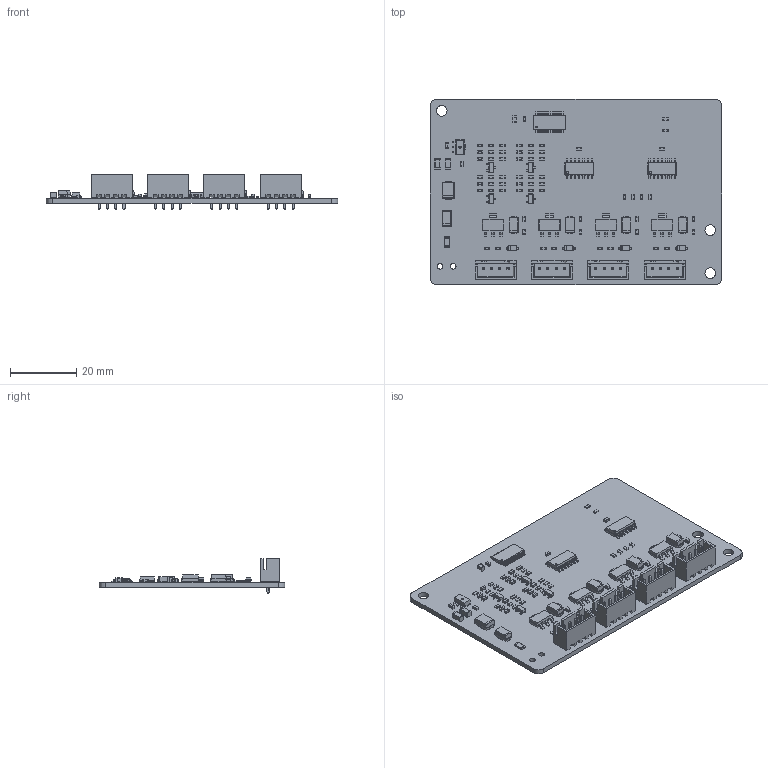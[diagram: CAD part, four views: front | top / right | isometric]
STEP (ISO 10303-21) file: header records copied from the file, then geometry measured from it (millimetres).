
FILE_DESCRIPTION(('KiCad electronic assembly'),'2;1');
FILE_NAME('AP_AO4.step','2026-10-10T08:00:37',('Pcbnew'),('Kicad'), 'Open CASCADE STEP processor 7.6','KiCad to STEP converter','Unknown' );
FILE_SCHEMA(('AUTOMOTIVE_DESIGN { 1 0 10303 214 1 1 1 1 }'));
Length unit declared in the file: millimetre
Products named in the file (18): AP_AO4 1; R_0603_1608Metric; LED_0603_1608Metric; C_0603_1608Metric; SOT-23; SOIC-14_3.9x8.7mm_P1.27mm; SOT-223; D_SMA; Fuse_1206_3216Metric; JST_XH_B4B-XH-A_1x04_P2.50mm_Vertical; C_1206_3216Metric; D_SOD-123; TSSOP-28_4.4x9.7mm_P0.65mm; D_SMB; SOT-89-3; AP_AO4 1.83.1; C_0805_2012Metric; AP_AO4_PCB
Assembly tree (95 placements, depth 3):
  AP_AO4 1
    R_0603_1608Metric  x38
    LED_0603_1608Metric  x4
    C_0603_1608Metric  x21
    SOT-23  x4
    SOIC-14_3.9x8.7mm_P1.27mm  x2
    SOT-223  x4
    D_SMA  x5
    Fuse_1206_3216Metric
    JST_XH_B4B-XH-A_1x04_P2.50mm_Vertical  x4
    C_1206_3216Metric  x2
    D_SOD-123  x4
    TSSOP-28_4.4x9.7mm_P0.65mm
    D_SMB
    SOT-89-3
      AP_AO4 1.83.1
    C_0805_2012Metric
    AP_AO4_PCB
Bounding box: 88 x 56 x 10.4 mm (x, y, z)
Volume: 8956.6 mm3; surface area: 14698.1 mm2
Topology: 98 solids, 98 shells, 4601 faces, 11857 edges, 7550 vertices
Faces by surface type: plane 3068, cylinder 1069, bspline 464
Full cylindrical faces by diameter (mm): 0.5 x1, 0.6 x2, 0.7 x1, 0.95 x16, 1.7 x2, 3.2 x3
Entity records: 42949 total; most frequent: CARTESIAN_POINT 8202, ORIENTED_EDGE 7296, DIRECTION 6712, EDGE_CURVE 3648, LINE 2852, VECTOR 2852, VERTEX_POINT 2304, AXIS2_PLACEMENT_3D 1930
